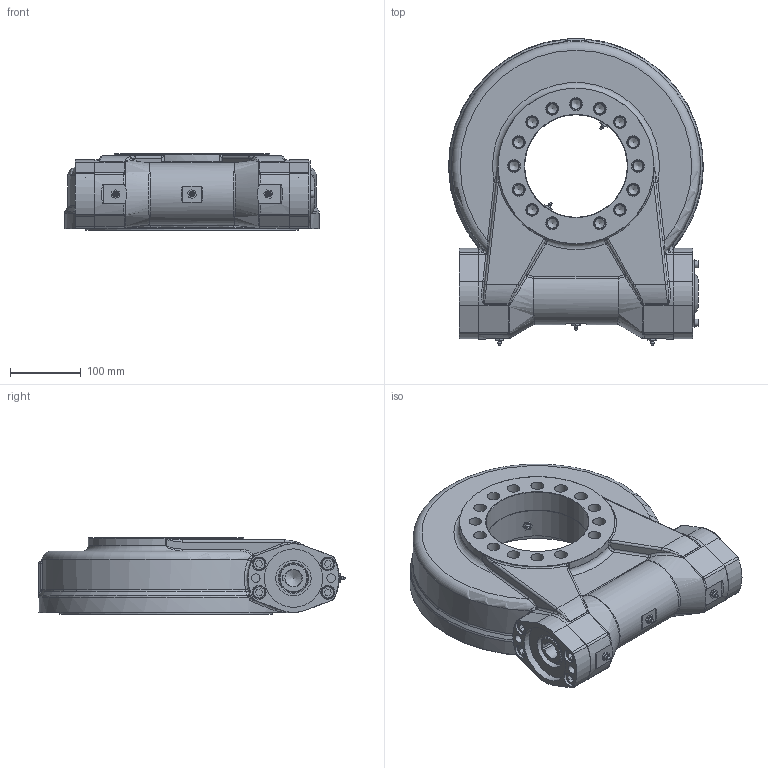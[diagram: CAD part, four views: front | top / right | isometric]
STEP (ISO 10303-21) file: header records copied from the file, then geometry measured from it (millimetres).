
FILE_DESCRIPTION (( 'STEP AP214' ), '1' );
FILE_NAME ('FWA9-62M-25H-R-REV.A.STEP', '2022-09-17T00:14:36', ( '' ), ( '' ), 'SwSTEP 2.0', 'SolidWorks 2018', '' );
FILE_SCHEMA (( 'AUTOMOTIVE_DESIGN' ));
Length unit declared in the file: millimetre
Products named in the file (1): FWA9-62M-25H-R-REV.A
Bounding box: 360 x 433.3 x 108 mm (x, y, z)
Volume: 6570261.5 mm3; surface area: 1107301.9 mm2
Topology: 19 solids, 19 shells, 980 faces, 2137 edges, 1331 vertices
Faces by surface type: plane 378, cylinder 305, bspline 130, cone 98, torus 53, sphere 16
Full cylindrical faces by diameter (mm): 5 x2, 6 x2, 6.8 x4, 7 x8, 8 x8, 9 x3, 10 x15, 10.2 x8, 12 x10, 13 x12, 14 x33, 15 x4, 16 x31, 18 x23, 19 x1, 19.5 x8, 24 x1, 25.4 x1, 35 x1, 40 x4, 41.908 x2, 47 x2, 50 x4, 57 x1, 66 x2, 68.5 x2, 75 x2, 80 x4, 82.55 x1, 82.8 x2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
Entity records: 44747 total; most frequent: CARTESIAN_POINT 14846, DIRECTION 3862, ORIENTED_EDGE 3320, EDGE_CURVE 1660, AXIS2_PLACEMENT_3D 1656, EDGE_LOOP 1561, FACE_OUTER_BOUND 1235, VERTEX_POINT 1227
